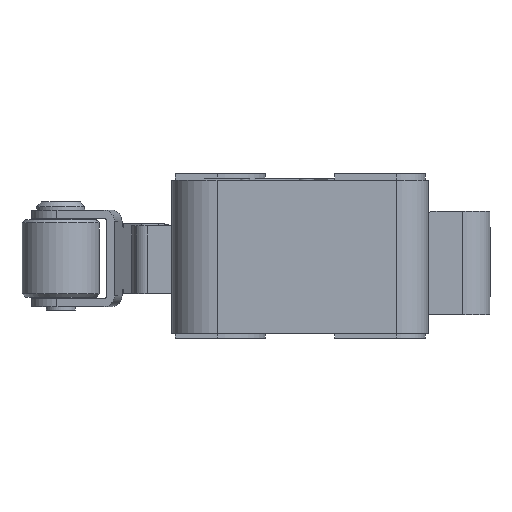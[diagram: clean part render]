
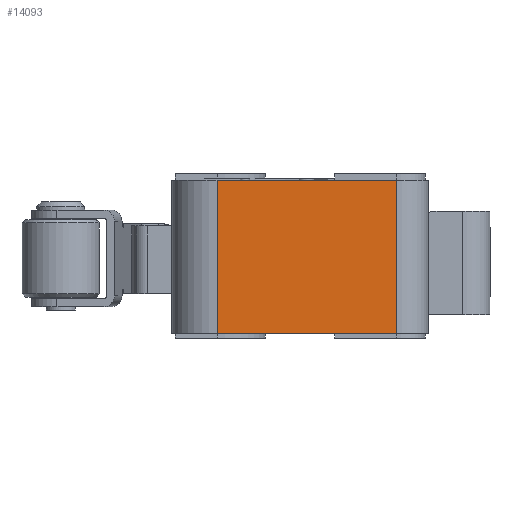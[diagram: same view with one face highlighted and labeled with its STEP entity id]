
A CAD part, left-side view. The second image highlights one B-rep face of the part: STEP entity #14093.
In plain terms, the highlighted planar face has unit normal (-1, 0, 0).
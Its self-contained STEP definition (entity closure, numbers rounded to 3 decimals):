
#2170=DIRECTION('',(0.,0.,-1.));
#2171=VECTOR('',#2170,9.5);
#2172=CARTESIAN_POINT('',(-27.322,-2.893,
4.734));
#2173=LINE('',#2172,#2171);
#2174=DIRECTION('',(0.,0.,1.));
#2175=VECTOR('',#2174,9.5);
#2176=CARTESIAN_POINT('',(-27.322,8.207,
-4.766));
#2177=LINE('',#2176,#2175);
#2178=DIRECTION('',(0.,1.,0.));
#2179=VECTOR('',#2178,11.1);
#2180=CARTESIAN_POINT('',(-27.322,-2.893,
4.734));
#2181=LINE('',#2180,#2179);
#2448=DIRECTION('',(0.,1.,0.));
#2449=VECTOR('',#2448,11.1);
#2450=CARTESIAN_POINT('',(-27.322,-2.893,
-4.766));
#2451=LINE('',#2450,#2449);
#11315=CARTESIAN_POINT('',(-27.322,8.207,
4.734));
#11317=VERTEX_POINT('',#11315);
#12007=CARTESIAN_POINT('',(-27.322,-2.893,
4.734));
#12008=VERTEX_POINT('',#12007);
#12645=CARTESIAN_POINT('',(-27.322,-2.893,
-4.766));
#12646=CARTESIAN_POINT('',(-27.322,8.207,
-4.766));
#12647=VERTEX_POINT('',#12645);
#12648=VERTEX_POINT('',#12646);
#14080=CARTESIAN_POINT('',(-27.322,8.207,
2.034));
#14081=DIRECTION('',(-1.,0.,0.));
#14082=DIRECTION('',(0.,-1.,0.));
#14083=AXIS2_PLACEMENT_3D('',#14080,#14081,#14082);
#14084=PLANE('',#14083);
#14086=ORIENTED_EDGE('',*,*,#14085,.T.);
#14088=ORIENTED_EDGE('',*,*,#14087,.T.);
#14089=ORIENTED_EDGE('',*,*,#14071,.T.);
#14090=ORIENTED_EDGE('',*,*,#13145,.F.);
#14091=EDGE_LOOP('',(#14086,#14088,#14089,#14090));
#14092=FACE_OUTER_BOUND('',#14091,.F.);
#14093=ADVANCED_FACE('',(#14092),#14084,.T.);
#13145=EDGE_CURVE('',#12008,#11317,#2181,.T.);
#14071=EDGE_CURVE('',#12648,#11317,#2177,.T.);
#14085=EDGE_CURVE('',#12008,#12647,#2173,.T.);
#14087=EDGE_CURVE('',#12647,#12648,#2451,.T.);
